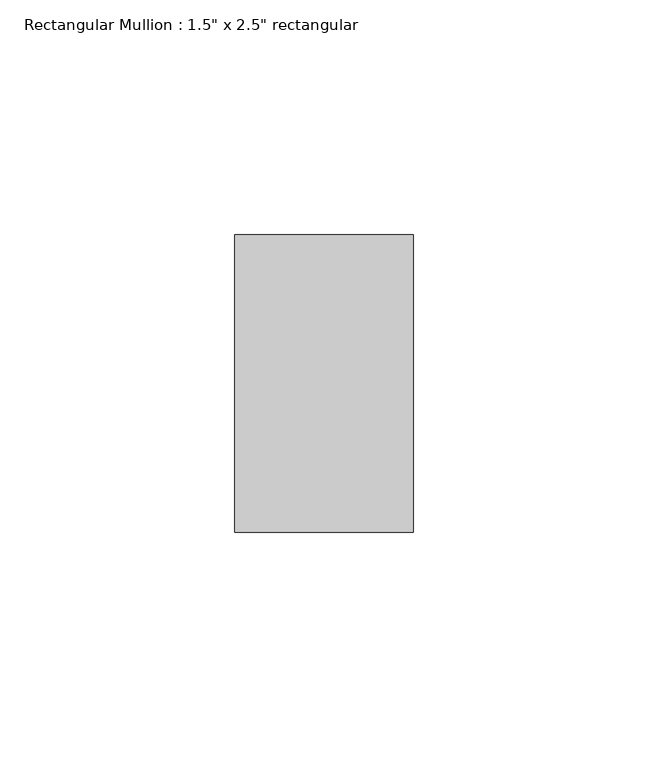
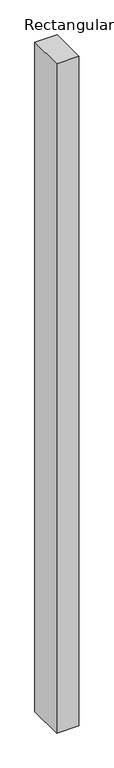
"""IFC4 building model written with IfcOpenShell, lengths in millimetres: member geometry."""

from ifc_helpers import new_model, si_unit, frame, origin, place, context, project, spatial, polyline, outline, extrude, source, transform, mapped, element, save


def member_81ac959f(model_context):
    return source(origin(), model_context, "Body", "SweptSolid", [
        extrude(outline(polyline([(19.05, 31.75), (19.05, -31.75), (-19.05, -31.75), (-19.05, 31.75), (19.05, 31.75)])), frame((0.0, 0.0, -1200.3609065), z_axis=(0.0, 0.0, 1.0), x_axis=(1.0, 0.0, 0.0)), (0.0, 0.0, 1.0), 1200.3609065),
    ])


if __name__ == "__main__":
    model = new_model("IFC4")
    model_context = context("Model", 3, world=origin())
    ifc_project = project(units=[si_unit("LENGTHUNIT", "METRE", prefix="MILLI")], contexts=[model_context])
    site = spatial("IfcSite", under=ifc_project)
    building = spatial("IfcBuilding", under=site)
    placement = place(None, origin())
    member_shape = member_81ac959f(model_context)
    element("IfcMember", 1, ObjectType="Rectangular Mullion : 1.5\" x 2.5\" rectangular", at=placement, inside=building, context=model_context, shape_type="MappedRepresentation", body=[
        mapped(member_shape, transform((0.0, 0.0, 0.0), x_axis=(1.0, 0.0, 0.0), y_axis=(0.0, 1.0, 0.0), z_axis=(0.0, 0.0, 1.0))),
    ])
    save(model, "model.ifc")
